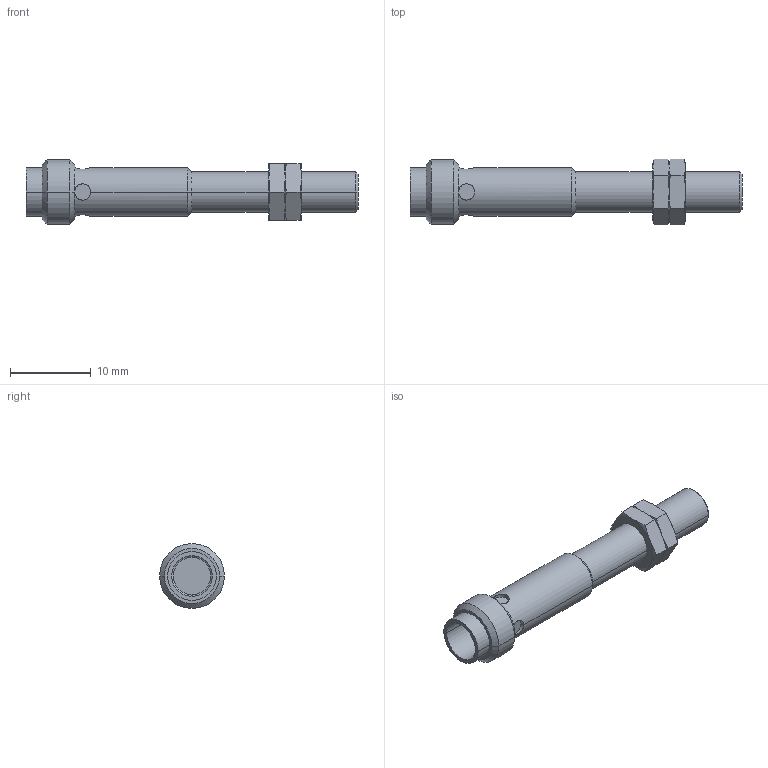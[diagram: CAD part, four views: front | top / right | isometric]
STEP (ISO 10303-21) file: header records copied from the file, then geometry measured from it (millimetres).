
FILE_DESCRIPTION( ( '' ), '1' );
FILE_NAME( '//partserver001.servicenet/client_exchange/iodir/jobs/output/wkb10618253_no0/STEP/iy5048_2_03.stp', '2008-05-16T10:59:18', ( '' ), ( '' ), ' ', ' ', ' ' );
FILE_SCHEMA( ( 'CONFIG_CONTROL_DESIGN' ) );
Length unit declared in the file: millimetre
Products named in the file (3): 1; 2; 3
Bounding box: 41 x 8.08 x 8 mm (x, y, z)
Volume: 1039 mm3; surface area: 1156.8 mm2
Topology: 3 solids, 3 shells, 97 faces, 205 edges, 117 vertices
Faces by surface type: cone 48, plane 25, cylinder 22, torus 2
Entity records: 2774 total; most frequent: CARTESIAN_POINT 658, DIRECTION 440, ORIENTED_EDGE 410, EDGE_CURVE 205, AXIS2_PLACEMENT_3D 191, VERTEX_POINT 117, EDGE_LOOP 104, ADVANCED_FACE 97
